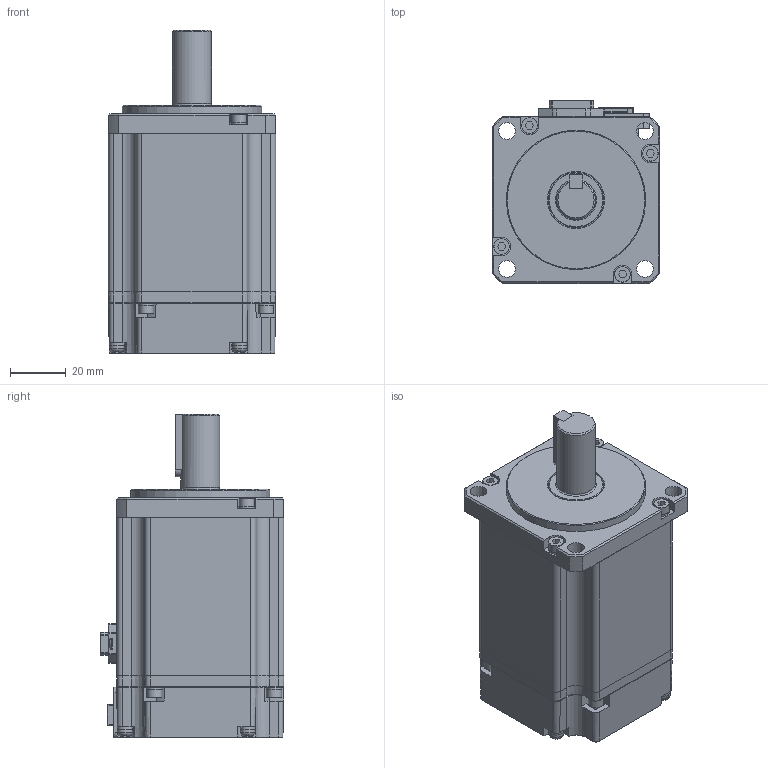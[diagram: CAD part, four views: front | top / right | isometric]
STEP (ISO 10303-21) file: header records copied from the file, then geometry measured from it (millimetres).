
FILE_DESCRIPTION (( 'STEP AP214' ), '1' );
FILE_NAME ('EM06GA001G03_Out Line(APM-EB04AM3K).STEP', '2022-11-04T03:03:36', ( '' ), ( '' ), 'SwSTEP 2.0', 'SolidWorks 2021', '' );
FILE_SCHEMA (( 'AUTOMOTIVE_DESIGN' ));
Length unit declared in the file: millimetre
Products named in the file (1): EM06GA001G03_Out Line(APM-EB04AM3K)
Bounding box: 60 x 65.9 x 116.2 mm (x, y, z)
Volume: 287641.9 mm3; surface area: 58149.3 mm2
Topology: 34 solids, 34 shells, 1416 faces, 3536 edges, 2253 vertices
Faces by surface type: plane 1030, cylinder 216, cone 107, torus 31, bspline 18, sphere 14
Full cylindrical faces by diameter (mm): 1.6 x10, 2 x2, 2.1 x2, 2.5 x12, 3 x16, 3.1 x8, 3.5 x4, 5.4 x8, 5.5 x8, 5.6 x8, 14 x1, 19.8 x1, 20.5 x1, 50 x1
Entity records: 57476 total; most frequent: CARTESIAN_POINT 8653, ORIENTED_EDGE 6724, DIRECTION 6473, EDGE_CURVE 3362, LINE 2503, VECTOR 2503, VERTEX_POINT 2210, AXIS2_PLACEMENT_3D 1985
